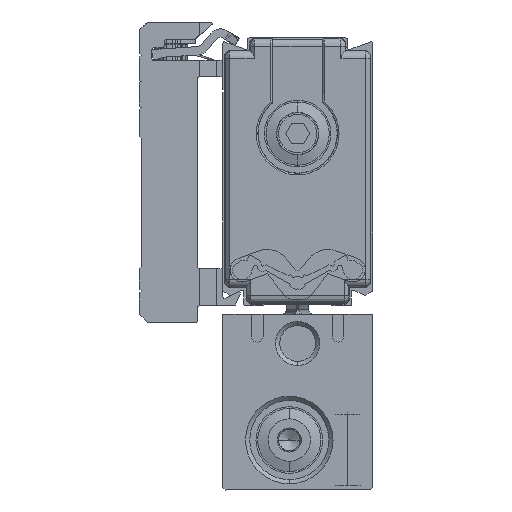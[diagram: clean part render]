
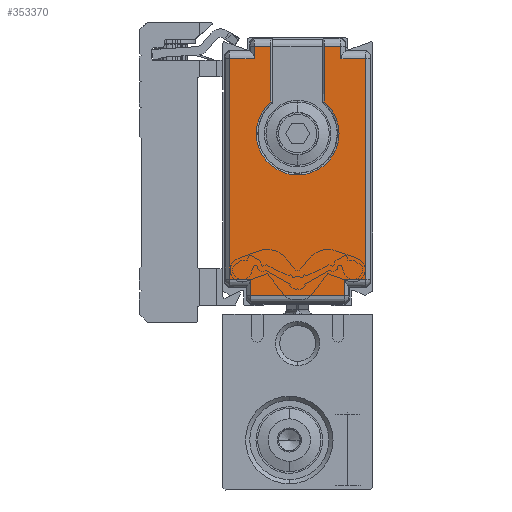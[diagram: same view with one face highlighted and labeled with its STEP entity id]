
A CAD part, left-side view. The second image highlights one B-rep face of the part: STEP entity #353370.
In plain terms, the highlighted planar face has unit normal (-1, 0, 0) as drawn and (0, 0, -1) by its records, which use the part's own axes.
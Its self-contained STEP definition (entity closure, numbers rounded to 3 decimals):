
#312530=CARTESIAN_POINT('',(24.688,30.224,-494.5));
#312540=VERTEX_POINT('',#312530);
#313590=CARTESIAN_POINT('',(31.365,35.75,-494.5));
#313600=DIRECTION('',(0.,-1.,0.));
#313610=VECTOR('',#313600,1.);
#313620=LINE('',#313590,#313610);
#313630=CARTESIAN_POINT('',(31.365,23.776,-494.5));
#313640=VERTEX_POINT('',#313630);
#313650=CARTESIAN_POINT('',(31.365,21.802,-494.5));
#313660=VERTEX_POINT('',#313650);
#313670=EDGE_CURVE('',#313640,#313660,#313620,.T.);
#320680=CARTESIAN_POINT('',(3.435,32.648,-494.5));
#320690=VERTEX_POINT('',#320680);
#320890=CARTESIAN_POINT('',(1.435,32.648,-494.5));
#320900=VERTEX_POINT('',#320890);
#320930=CARTESIAN_POINT('',(3.935,32.648,-494.5));
#320940=CARTESIAN_POINT('',(3.435,32.648,-494.5));
#320950=CARTESIAN_POINT('',(2.935,32.648,-494.5));
#320960=CARTESIAN_POINT('',(2.102,32.648,-494.5));
#320970=CARTESIAN_POINT('',(1.768,32.648,-494.5));
#320980=CARTESIAN_POINT('',(1.435,32.648,-494.5));
#320990=B_SPLINE_CURVE_WITH_KNOTS('',3,(#320930,#320940,#320950,#320960,
#320970,#320980),.UNSPECIFIED.,.F.,.F.,(4,2,4),(37.084,
38.584,39.584),.UNSPECIFIED.);
#321000=EDGE_CURVE('',#320690,#320900,#320990,.T.);
#322340=CARTESIAN_POINT('',(24.688,23.776,-494.5));
#322350=VERTEX_POINT('',#322340);
#324140=CARTESIAN_POINT('',(29.865,35.75,-494.5));
#324150=DIRECTION('',(0.,1.,0.));
#324160=VECTOR('',#324150,1.);
#324170=LINE('',#324140,#324160);
#324180=CARTESIAN_POINT('',(29.865,32.198,-494.5));
#324190=VERTEX_POINT('',#324180);
#324200=CARTESIAN_POINT('',(29.865,35.198,-494.5));
#324210=VERTEX_POINT('',#324200);
#324220=EDGE_CURVE('',#324190,#324210,#324170,.T.);
#326070=CARTESIAN_POINT('',(3.435,35.75,-494.5));
#326080=DIRECTION('',(0.,1.,0.));
#326090=VECTOR('',#326080,1.);
#326100=LINE('',#326070,#326090);
#326110=CARTESIAN_POINT('',(3.435,35.198,-494.5));
#326120=VERTEX_POINT('',#326110);
#326130=EDGE_CURVE('',#320690,#326120,#326100,.T.);
#326560=CARTESIAN_POINT('',(31.365,32.198,-494.5));
#326570=VERTEX_POINT('',#326560);
#326600=CARTESIAN_POINT('',(31.365,30.224,-494.5));
#326610=VERTEX_POINT('',#326600);
#326620=EDGE_CURVE('',#326570,#326610,#313620,.T.);
#327330=CARTESIAN_POINT('',(3.435,18.802,-494.5));
#327340=VERTEX_POINT('',#327330);
#327650=CARTESIAN_POINT('',(3.435,35.75,-494.5));
#327660=DIRECTION('',(0.,-1.,0.));
#327670=VECTOR('',#327660,1.);
#327680=LINE('',#327650,#327670);
#327690=CARTESIAN_POINT('',(3.435,21.352,-494.5));
#327700=VERTEX_POINT('',#327690);
#327710=EDGE_CURVE('',#327700,#327340,#327680,.T.);
#328560=CARTESIAN_POINT('',(1.435,21.352,-494.5));
#328570=VERTEX_POINT('',#328560);
#330040=CARTESIAN_POINT('',(3.935,21.352,-494.5));
#330050=CARTESIAN_POINT('',(3.435,21.352,-494.5));
#330060=CARTESIAN_POINT('',(2.935,21.352,-494.5));
#330070=CARTESIAN_POINT('',(2.102,21.352,-494.5));
#330080=CARTESIAN_POINT('',(1.768,21.352,-494.5));
#330090=CARTESIAN_POINT('',(1.435,21.352,-494.5));
#330100=B_SPLINE_CURVE_WITH_KNOTS('',3,(#330040,#330050,#330060,#330070,
#330080,#330090),.UNSPECIFIED.,.F.,.F.,(4,2,4),(37.084,
38.584,39.584),.UNSPECIFIED.);
#330110=EDGE_CURVE('',#327700,#328570,#330100,.T.);
#331290=CARTESIAN_POINT('',(1.435,35.75,-494.5));
#331300=DIRECTION('',(0.,1.,0.));
#331310=VECTOR('',#331300,1.);
#331320=LINE('',#331290,#331310);
#331330=EDGE_CURVE('',#328570,#320900,#331320,.T.);
#334830=CARTESIAN_POINT('',(0.15,30.224,-494.5));
#334840=DIRECTION('',(1.,0.,0.));
#334850=VECTOR('',#334840,1.);
#334860=LINE('',#334830,#334850);
#334870=EDGE_CURVE('',#312540,#326610,#334860,.T.);
#338610=CARTESIAN_POINT('',(29.865,21.802,-494.5));
#338620=VERTEX_POINT('',#338610);
#338670=CARTESIAN_POINT('',(29.365,21.802,-494.5));
#338680=CARTESIAN_POINT('',(29.782,21.802,-494.5));
#338690=CARTESIAN_POINT('',(30.198,21.802,-494.5));
#338700=CARTESIAN_POINT('',(30.865,21.802,-494.5));
#338710=CARTESIAN_POINT('',(31.115,21.802,-494.5));
#338720=CARTESIAN_POINT('',(31.365,21.802,-494.5));
#338730=B_SPLINE_CURVE_WITH_KNOTS('',3,(#338670,#338680,#338690,#338700,
#338710,#338720),.UNSPECIFIED.,.F.,.F.,(4,2,4),(37.587,
38.837,39.587),.UNSPECIFIED.);
#338740=EDGE_CURVE('',#338620,#313660,#338730,.T.);
#339070=CARTESIAN_POINT('',(29.365,32.198,-494.5));
#339080=CARTESIAN_POINT('',(29.782,32.198,-494.5));
#339090=CARTESIAN_POINT('',(30.198,32.198,-494.5));
#339100=CARTESIAN_POINT('',(30.865,32.198,-494.5));
#339110=CARTESIAN_POINT('',(31.115,32.198,-494.5));
#339120=CARTESIAN_POINT('',(31.365,32.198,-494.5));
#339130=B_SPLINE_CURVE_WITH_KNOTS('',3,(#339070,#339080,#339090,#339100,
#339110,#339120),.UNSPECIFIED.,.F.,.F.,(4,2,4),(37.587,
38.837,39.587),.UNSPECIFIED.);
#339140=EDGE_CURVE('',#324190,#326570,#339130,.T.);
#340130=CARTESIAN_POINT('',(29.865,18.802,-494.5));
#340140=VERTEX_POINT('',#340130);
#340170=CARTESIAN_POINT('',(3.435,18.802,-494.5));
#340180=CARTESIAN_POINT('',(7.84,18.802,-494.5));
#340190=CARTESIAN_POINT('',(12.245,18.802,-494.5));
#340200=CARTESIAN_POINT('',(21.055,18.802,-494.5));
#340210=CARTESIAN_POINT('',(25.46,18.802,-494.5));
#340220=CARTESIAN_POINT('',(29.865,18.802,-494.5));
#340230=B_SPLINE_CURVE_WITH_KNOTS('',3,(#340170,#340180,#340190,#340200,
#340210,#340220),.UNSPECIFIED.,.F.,.F.,(4,2,4),(24.334,
37.549,50.764),.UNSPECIFIED.);
#340240=EDGE_CURVE('',#327340,#340140,#340230,.T.);
#346640=CARTESIAN_POINT('',(29.865,35.75,-494.5));
#346650=DIRECTION('',(0.,-1.,0.));
#346660=VECTOR('',#346650,1.);
#346670=LINE('',#346640,#346660);
#346680=EDGE_CURVE('',#338620,#340140,#346670,.T.);
#347870=CARTESIAN_POINT('',(3.435,35.198,-494.5));
#347880=CARTESIAN_POINT('',(7.84,35.198,-494.5));
#347890=CARTESIAN_POINT('',(12.245,35.198,-494.5));
#347900=CARTESIAN_POINT('',(21.055,35.198,-494.5));
#347910=CARTESIAN_POINT('',(25.46,35.198,-494.5));
#347920=CARTESIAN_POINT('',(29.865,35.198,-494.5));
#347930=B_SPLINE_CURVE_WITH_KNOTS('',3,(#347870,#347880,#347890,#347900,
#347910,#347920),.UNSPECIFIED.,.F.,.F.,(4,2,4),(24.308,
37.523,50.738),.UNSPECIFIED.);
#347940=EDGE_CURVE('',#326120,#324210,#347930,.T.);
#352860=CARTESIAN_POINT('',(20.9,27.,-494.5));
#352870=DIRECTION('',(0.,0.,-1.));
#352880=DIRECTION('',(0.,1.,0.));
#352890=AXIS2_PLACEMENT_3D('',#352860,#352870,#352880);
#352900=CIRCLE('',#352890,4.974);
#352910=EDGE_CURVE('',#322350,#312540,#352900,.T.);
#353090=CARTESIAN_POINT('',(16.65,27.,-494.5));
#353100=DIRECTION('',(0.,0.,1.));
#353110=DIRECTION('',(0.,1.,0.));
#353120=AXIS2_PLACEMENT_3D('',#353090,#353100,#353110);
#353130=PLANE('',#353120);
#353140=ORIENTED_EDGE('',*,*,#352910,.F.);
#353150=ORIENTED_EDGE('',*,*,#334870,.F.);
#353160=ORIENTED_EDGE('',*,*,#326620,.T.);
#353170=ORIENTED_EDGE('',*,*,#339140,.T.);
#353180=ORIENTED_EDGE('',*,*,#324220,.F.);
#353190=ORIENTED_EDGE('',*,*,#347940,.T.);
#353200=ORIENTED_EDGE('',*,*,#326130,.T.);
#353210=ORIENTED_EDGE('',*,*,#321000,.F.);
#353220=ORIENTED_EDGE('',*,*,#331330,.T.);
#353230=ORIENTED_EDGE('',*,*,#330110,.T.);
#353240=ORIENTED_EDGE('',*,*,#327710,.F.);
#353250=ORIENTED_EDGE('',*,*,#340240,.F.);
#353260=ORIENTED_EDGE('',*,*,#346680,.T.);
#353270=ORIENTED_EDGE('',*,*,#338740,.F.);
#353280=ORIENTED_EDGE('',*,*,#313670,.T.);
#353290=CARTESIAN_POINT('',(0.15,23.776,-494.5));
#353300=DIRECTION('',(-1.,0.,0.));
#353310=VECTOR('',#353300,1.);
#353320=LINE('',#353290,#353310);
#353330=EDGE_CURVE('',#313640,#322350,#353320,.T.);
#353340=ORIENTED_EDGE('',*,*,#353330,.F.);
#353350=EDGE_LOOP('',(#353340,#353280,#353270,#353260,#353250,#353240,
#353230,#353220,#353210,#353200,#353190,#353180,#353170,#353160,#353150,
#353140));
#353360=FACE_OUTER_BOUND('',#353350,.T.);
#353370=ADVANCED_FACE('',(#353360),#353130,.F.);
